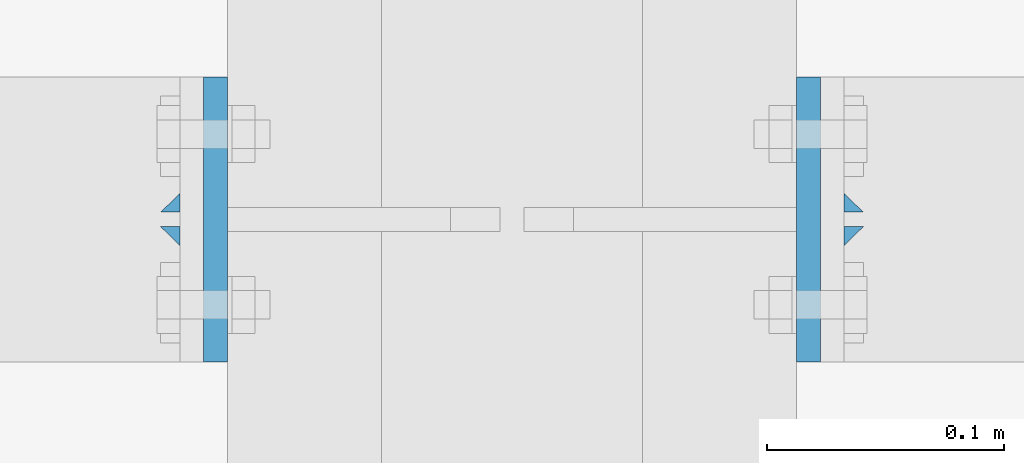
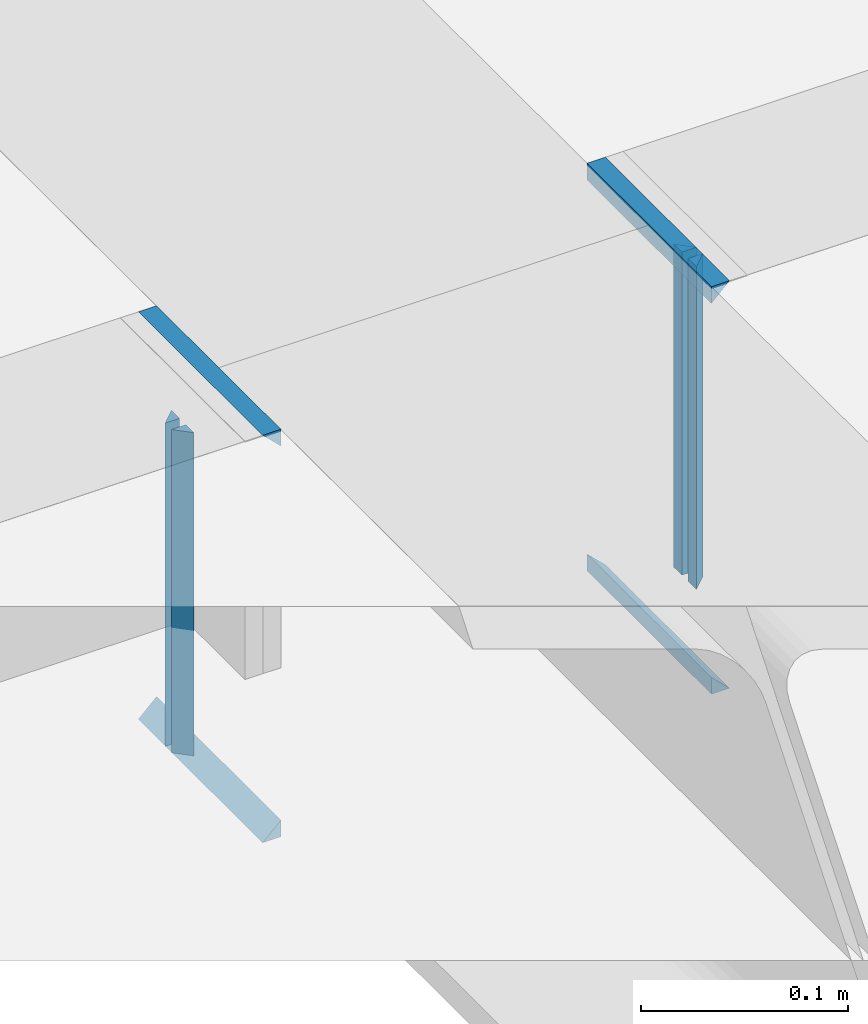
# One storey, part 13 of 66: 12 fasteners.
"""IFC4 building model written with IfcOpenShell, lengths in metres."""

from ifc_helpers import new_model, si_unit, frame, origin_with_axes, place, context, project, spatial, polyline, outline, extrude, type_object, element, save


model = new_model("IFC4")

# Units and contexts
model_context = context("Model", 3, precision=1e-05, world=origin_with_axes())
ifc_project = project(units=[si_unit("LENGTHUNIT", "METRE"), si_unit("AREAUNIT", "SQUARE_METRE"), si_unit("VOLUMEUNIT", "CUBIC_METRE"), si_unit("MASSUNIT", "GRAM", prefix="KILO"), si_unit("TIMEUNIT", "SECOND"), si_unit("PLANEANGLEUNIT", "RADIAN"), si_unit("SOLIDANGLEUNIT", "STERADIAN"), si_unit("THERMODYNAMICTEMPERATUREUNIT", "DEGREE_CELSIUS")], contexts=[model_context])

# Site, building, storey
placement_1 = place(None, origin_with_axes())
site = spatial("IfcSite", under=ifc_project, at=placement_1, Name="Italia", CompositionType="ELEMENT")
building = spatial("IfcBuilding", under=site, at=placement_1, Name="Uffici", CompositionType="ELEMENT")
storey_placement = place(None, frame((0.0, 0.0, 3.299999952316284), z_axis=(0.0, 0.0, 1.0), x_axis=(1.0, 0.0, 0.0)))
storey = spatial("IfcBuildingStorey", under=building, at=storey_placement, Name="Storey 1", CompositionType="ELEMENT", Elevation=3.299999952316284)

# Fasteners
fastener_type_1 = type_object("IfcFastenerType", Name="Collegamento -012_-011", PredefinedType="WELD")
placement_2 = place(placement_1, origin_with_axes())
fastener_1_placement = place(placement_2, origin_with_axes())
element("IfcFastener", 1, at=fastener_1_placement, inside=storey, type_object=fastener_type_1, Name="Collegamento -012_-011", context=model_context, shape_type="SweptSolid", body=[
    extrude(outline(polyline([(0.0, 0.0), (0.00792813, 0.00817347), (0.00792813, 0.0), (0.0, 0.0)])), frame((3.06505, 3.58236, 3.08475), z_axis=(0.0, 0.0, 1.0), x_axis=(0.0, 1.0, 0.0)), (0.0, 0.0, 1.0), 0.1905),
])
fastener_type_2 = type_object("IfcFastenerType", Name="Collegamento -012_-011", PredefinedType="WELD")
fastener_2_placement = place(placement_2, origin_with_axes())
element("IfcFastener", 2, at=fastener_2_placement, inside=storey, type_object=fastener_type_2, Name="Collegamento -012_-011", context=model_context, shape_type="SweptSolid", body=[
    extrude(outline(polyline([(0.0, 0.0), (-0.00792813, -0.00817347), (-0.00792813, 0.0), (0.0, 0.0)])), frame((3.06505, 3.60431, 3.27525), z_axis=(0.0, 0.0, -1.0), x_axis=(0.0, 1.0, 0.0)), (0.0, 0.0, 1.0), 0.1905),
])
fastener_type_3 = type_object("IfcFastenerType", Name="Collegamento -012_-011", PredefinedType="WELD")
fastener_3_placement = place(placement_2, origin_with_axes())
element("IfcFastener", 3, at=fastener_3_placement, inside=storey, type_object=fastener_type_3, Name="Collegamento -012_-011", context=model_context, shape_type="SweptSolid", body=[
    extrude(outline(polyline([(0.0, 0.0), (0.00792813, 0.00817347), (0.00792813, 0.0), (0.0, 0.0)])), frame((3.06505, 3.58236, 3.08475), z_axis=(0.0, 0.0, 1.0), x_axis=(0.0, 1.0, 0.0)), (0.0, 0.0, 1.0), 0.1905),
])
fastener_type_4 = type_object("IfcFastenerType", Name="Collegamento -012_-011", PredefinedType="WELD")
fastener_4_placement = place(placement_2, origin_with_axes())
element("IfcFastener", 4, at=fastener_4_placement, inside=storey, type_object=fastener_type_4, Name="Collegamento -012_-011", context=model_context, shape_type="SweptSolid", body=[
    extrude(outline(polyline([(0.0, 0.0), (-0.00792813, -0.00817347), (-0.00792813, 0.0), (0.0, 0.0)])), frame((3.06505, 3.60431, 3.27525), z_axis=(0.0, 0.0, -1.0), x_axis=(0.0, 1.0, 0.0)), (0.0, 0.0, 1.0), 0.1905),
])
fastener_type_5 = type_object("IfcFastenerType", Name="Collegamento -012_-011", PredefinedType="WELD")
fastener_5_placement = place(placement_2, origin_with_axes())
element("IfcFastener", 5, at=fastener_5_placement, inside=storey, type_object=fastener_type_5, Name="Collegamento -012_-011", context=model_context, shape_type="SweptSolid", body=[
    extrude(outline(polyline([(0.0, 0.0), (0.0101733, -0.00986814), (0.0, -0.00986814), (0.0, 0.0)])), frame((3.08505, 3.53328, 3.06982), z_axis=(0.0, 1.0, 0.0), x_axis=(-1.0, 0.0, 0.0)), (0.0, 0.0, 1.0), 0.1201),
])
fastener_type_6 = type_object("IfcFastenerType", Name="Collegamento -012_-011", PredefinedType="WELD")
fastener_6_placement = place(placement_2, origin_with_axes())
element("IfcFastener", 6, at=fastener_6_placement, inside=storey, type_object=fastener_type_6, Name="Collegamento -012_-011", context=model_context, shape_type="SweptSolid", body=[
    extrude(outline(polyline([(0.0, 0.0), (-0.0101733, 0.00986814), (0.0, 0.00986814), (0.0, 0.0)])), frame((3.08505, 3.65338, 3.29018), z_axis=(0.0, -1.0, 0.0), x_axis=(1.0, 0.0, 0.0)), (0.0, 0.0, 1.0), 0.1201),
])
fastener_type_7 = type_object("IfcFastenerType", Name="Collegamento -012_-013", PredefinedType="WELD")
fastener_7_placement = place(placement_2, origin_with_axes())
element("IfcFastener", 7, at=fastener_7_placement, inside=storey, type_object=fastener_type_7, Name="Collegamento -012_-013", context=model_context, shape_type="SweptSolid", body=[
    extrude(outline(polyline([(0.0, 0.0), (0.00792813, 0.00817347), (0.00792813, 0.0), (0.0, 0.0)])), frame((3.34495, 3.58236, 3.27525), z_axis=(0.0, 0.0, -1.0), x_axis=(0.0, 1.0, 0.0)), (0.0, 0.0, 1.0), 0.1905),
])
fastener_type_8 = type_object("IfcFastenerType", Name="Collegamento -012_-013", PredefinedType="WELD")
fastener_8_placement = place(placement_2, origin_with_axes())
element("IfcFastener", 8, at=fastener_8_placement, inside=storey, type_object=fastener_type_8, Name="Collegamento -012_-013", context=model_context, shape_type="SweptSolid", body=[
    extrude(outline(polyline([(0.0, 0.0), (-0.00792813, -0.00817347), (-0.00792813, 0.0), (0.0, 0.0)])), frame((3.34495, 3.60431, 3.08475), z_axis=(0.0, 0.0, 1.0), x_axis=(0.0, 1.0, 0.0)), (0.0, 0.0, 1.0), 0.1905),
])
fastener_type_9 = type_object("IfcFastenerType", Name="Collegamento -012_-013", PredefinedType="WELD")
fastener_9_placement = place(placement_2, origin_with_axes())
element("IfcFastener", 9, at=fastener_9_placement, inside=storey, type_object=fastener_type_9, Name="Collegamento -012_-013", context=model_context, shape_type="SweptSolid", body=[
    extrude(outline(polyline([(0.0, 0.0), (0.00792813, 0.00817347), (0.00792813, 0.0), (0.0, 0.0)])), frame((3.34495, 3.58236, 3.27525), z_axis=(0.0, 0.0, -1.0), x_axis=(0.0, 1.0, 0.0)), (0.0, 0.0, 1.0), 0.1905),
])
fastener_type_10 = type_object("IfcFastenerType", Name="Collegamento -012_-013", PredefinedType="WELD")
fastener_10_placement = place(placement_2, origin_with_axes())
element("IfcFastener", 10, at=fastener_10_placement, inside=storey, type_object=fastener_type_10, Name="Collegamento -012_-013", context=model_context, shape_type="SweptSolid", body=[
    extrude(outline(polyline([(0.0, 0.0), (-0.00792813, -0.00817347), (-0.00792813, 0.0), (0.0, 0.0)])), frame((3.34495, 3.60431, 3.08475), z_axis=(0.0, 0.0, 1.0), x_axis=(0.0, 1.0, 0.0)), (0.0, 0.0, 1.0), 0.1905),
])
fastener_type_11 = type_object("IfcFastenerType", Name="Collegamento -012_-013", PredefinedType="WELD")
fastener_11_placement = place(placement_2, origin_with_axes())
element("IfcFastener", 11, at=fastener_11_placement, inside=storey, type_object=fastener_type_11, Name="Collegamento -012_-013", context=model_context, shape_type="SweptSolid", body=[
    extrude(outline(polyline([(0.0, 0.0), (0.0101733, -0.00986814), (0.0, -0.00986814), (0.0, 0.0)])), frame((3.32495, 3.65338, 3.06982), z_axis=(0.0, -1.0, 0.0), x_axis=(1.0, 0.0, 0.0)), (0.0, 0.0, 1.0), 0.1201),
])
fastener_type_12 = type_object("IfcFastenerType", Name="Collegamento -012_-013", PredefinedType="WELD")
fastener_12_placement = place(placement_2, origin_with_axes())
element("IfcFastener", 12, at=fastener_12_placement, inside=storey, type_object=fastener_type_12, Name="Collegamento -012_-013", context=model_context, shape_type="SweptSolid", body=[
    extrude(outline(polyline([(0.0, 0.0), (-0.0101733, 0.00986814), (0.0, 0.00986814), (0.0, 0.0)])), frame((3.32495, 3.53328, 3.29018), z_axis=(0.0, 1.0, 0.0), x_axis=(-1.0, 0.0, 0.0)), (0.0, 0.0, 1.0), 0.1201),
])

save(model, "model.ifc")
